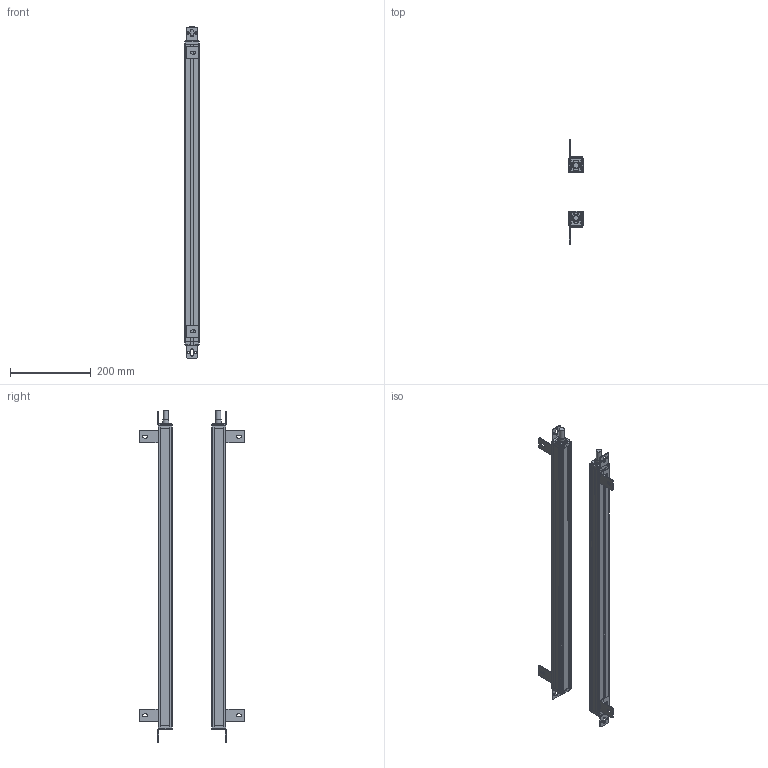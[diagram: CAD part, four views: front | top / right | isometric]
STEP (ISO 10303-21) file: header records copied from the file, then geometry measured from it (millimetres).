
FILE_DESCRIPTION(/* description */ (''),/* implementation_level */ '2;1');
FILE_NAME(/* name */ '1840_35X35.stp',/* time_stamp */ '2023-09-18T15:54:04+08:00',/* author */ (''),/* organization */ (''),/* preprocessor_version */ 'ST-DEVELOPER v16.7',/* originating_system */ 'SIEMENS PLM Software NX 12.0',/* authorisation */ '');
FILE_SCHEMA (('AP203_CONFIGURATION_CONTROLLED_3D_DESIGN_OF_MECHANICAL_PARTS_AND_ASSEMBLIES_MIM_LF { 1 0 10303 403 2 1 2}'));
Length unit declared in the file: millimetre
Products named in the file (1): 1840_35X35_stp
Bounding box: 35.41 x 258.01 x 821.6 mm (x, y, z)
Volume: 750696.1 mm3; surface area: 568904.1 mm2
Topology: 28 solids, 28 shells, 1182 faces, 3360 edges, 2260 vertices
Faces by surface type: plane 658, cylinder 464, cone 60
Full cylindrical faces by diameter (mm): 3.2 x8, 6 x24, 13 x2, 14.4 x2, 15 x2
Entity records: 39055 total; most frequent: DIRECTION 6832, CARTESIAN_POINT 6745, ORIENTED_EDGE 6612, EDGE_CURVE 3306, AXIS2_PLACEMENT_3D 2347, VERTEX_POINT 2244, LINE 2138, VECTOR 2138
